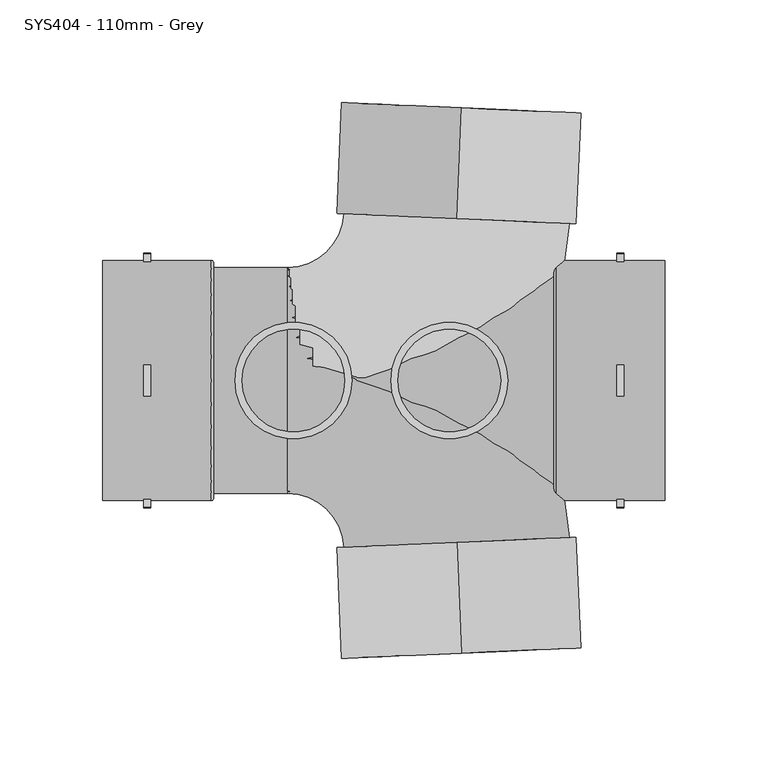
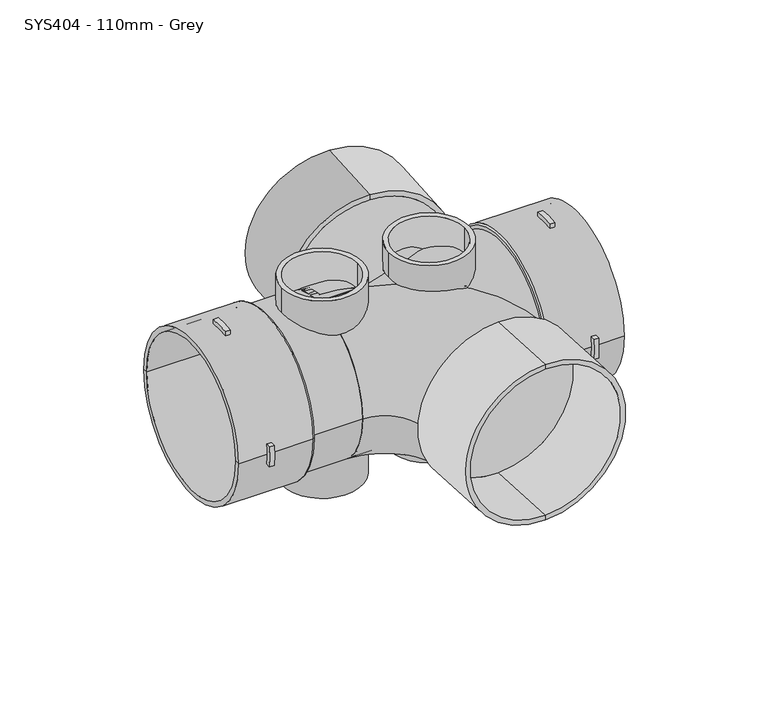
"""IFC4 building model written with IfcOpenShell, lengths in millimetres: pipe fitting geometry, MarleyPlumbingAndDrainage_PipeFitting_DoubleBranch87-5 : SYS404 - 110mm - Grey."""

from ifc_helpers import new_model, si_unit, point, frame, frame_2d, origin, place, context, project, spatial, polyline, circle_curve, ellipse_curve, trimmed, segment, composite_curve, outline, extrude, source, transform, mapped, element, save
from ifc_brep_helpers import plane_surface, cylinder_surface, revolved_surface, advanced_brep


def sys404_110mm_grey_1d753bb9(model_context):
    return source(origin(), model_context, "Body", "SolidModel", [
        advanced_brep(
        [(1.8780099, 78.8988447, -58.5), (1.8780099, 78.8988447, 58.5), (1.8780099, 78.8988447, 55.0), (1.8780099, 78.8988447, -55.0), (4.2334568, 132.8474487, -58.5), (4.2334568, 132.8474487, 58.5), (4.2334568, 132.8474487, -55.0), (4.2334568, 132.8474487, 55.0)],
        [
            (0, 1, circle_curve(frame((1.8780099, 78.8988447, 0.0), z_axis=(-0.04361938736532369, -0.9990482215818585, 0.0), x_axis=(0.0, 0.0, 1.0)), 58.5)),
            (1, 2),
            (2, 3, circle_curve(frame((1.8780099, 78.8988447, 0.0), z_axis=(0.04361938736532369, 0.9990482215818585, 0.0), x_axis=(0.0, 0.0, 1.0)), 55.0)),
            (3, 0),
            (1, 0, circle_curve(frame((1.8780099, 78.8988447, 0.0), z_axis=(-0.04361938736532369, -0.9990482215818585, 0.0), x_axis=(0.0, 0.0, 1.0)), 58.5)),
            (3, 2, circle_curve(frame((1.8780099, 78.8988447, 0.0), z_axis=(0.04361938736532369, 0.9990482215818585, 0.0), x_axis=(0.0, 0.0, 1.0)), 55.0)),
            (4, 5, circle_curve(frame((4.2334568, 132.8474487, 0.0), z_axis=(-0.04361938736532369, -0.9990482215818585, 0.0), x_axis=(0.0, 0.0, 1.0)), 58.5)),
            (5, 1),
            (0, 4),
            (5, 4, circle_curve(frame((4.2334568, 132.8474487, 0.0), z_axis=(-0.04361938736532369, -0.9990482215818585, 0.0), x_axis=(0.0, 0.0, 1.0)), 58.5)),
            (6, 7, circle_curve(frame((4.2334568, 132.8474487, 0.0), z_axis=(-0.04361938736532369, -0.9990482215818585, 0.0), x_axis=(0.0, 0.0, 1.0)), 55.0)),
            (7, 5),
            (4, 6),
            (7, 6, circle_curve(frame((4.2334568, 132.8474487, 0.0), z_axis=(-0.04361938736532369, -0.9990482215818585, 0.0), x_axis=(0.0, 0.0, 1.0)), 55.0)),
            (2, 7),
            (6, 3),
        ],
        [
            plane_surface(frame((1.8780099, 78.8988447, 0.0), z_axis=(-0.04361938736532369, -0.9990482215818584, 0.0), x_axis=(0.0, 0.0, 1.0))),
            cylinder_surface(frame((8.5953955, 232.7522709, 0.0), z_axis=(0.043619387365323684, 0.9990482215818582, 0.0), x_axis=(0.0, 0.0, 1.0)), 58.5),
            plane_surface(frame((4.2334568, 132.8474487, 0.0), z_axis=(0.04361938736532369, 0.9990482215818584, 0.0), x_axis=(0.0, 0.0, 1.0))),
            revolved_surface(polyline([(4.233456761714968, 132.84744870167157, 55.0), (1.8780098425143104, 78.8988447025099, 55.0)]), (8.5953955, 232.7522709, 0.0), (0.043619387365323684, 0.9990482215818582, 0.0)),
        ],
        [
            (0, [[1, 2, 3, 4]]),
            (0, [[5, -4, 6, -2]]),
            (1, [[7, 8, -1, 9]]),
            (1, [[10, -9, -5, -8]]),
            (2, [[11, 12, -7, 13]]),
            (2, [[14, -13, -10, -12]]),
            (3, [[-3, 15, -11, 16]]),
            (3, [[-6, -16, -14, -15]]),
        ],
    ),
        advanced_brep(
        [(1.8780099, -78.8988447, -58.5), (1.8780099, -78.8988447, 58.5), (1.8780099, -78.8988447, 55.0), (1.8780099, -78.8988447, -55.0), (4.2334568, -132.8474487, -58.5), (4.2334568, -132.8474487, 58.5), (4.2334568, -132.8474487, -55.0), (4.2334568, -132.8474487, 55.0)],
        [
            (0, 1, circle_curve(frame((1.8780099, -78.8988447, 0.0), z_axis=(-0.043619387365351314, 0.9990482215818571, 0.0), x_axis=(0.0, 0.0, 1.0)), 58.5)),
            (1, 2),
            (2, 3, circle_curve(frame((1.8780099, -78.8988447, 0.0), z_axis=(0.043619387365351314, -0.9990482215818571, 0.0), x_axis=(0.0, 0.0, 1.0)), 55.0)),
            (3, 0),
            (1, 0, circle_curve(frame((1.8780099, -78.8988447, 0.0), z_axis=(-0.043619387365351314, 0.9990482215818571, 0.0), x_axis=(0.0, 0.0, 1.0)), 58.5)),
            (3, 2, circle_curve(frame((1.8780099, -78.8988447, 0.0), z_axis=(0.043619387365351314, -0.9990482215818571, 0.0), x_axis=(0.0, 0.0, 1.0)), 55.0)),
            (4, 5, circle_curve(frame((4.2334568, -132.8474487, 0.0), z_axis=(-0.043619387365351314, 0.9990482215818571, 0.0), x_axis=(0.0, 0.0, 1.0)), 58.5)),
            (5, 1),
            (0, 4),
            (5, 4, circle_curve(frame((4.2334568, -132.8474487, 0.0), z_axis=(-0.043619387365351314, 0.9990482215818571, 0.0), x_axis=(0.0, 0.0, 1.0)), 58.5)),
            (6, 7, circle_curve(frame((4.2334568, -132.8474487, 0.0), z_axis=(-0.043619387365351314, 0.9990482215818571, 0.0), x_axis=(0.0, 0.0, 1.0)), 55.0)),
            (7, 5),
            (4, 6),
            (7, 6, circle_curve(frame((4.2334568, -132.8474487, 0.0), z_axis=(-0.043619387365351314, 0.9990482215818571, 0.0), x_axis=(0.0, 0.0, 1.0)), 55.0)),
            (2, 7),
            (6, 3),
        ],
        [
            plane_surface(frame((1.8780099, -78.8988447, 0.0), z_axis=(-0.043619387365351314, 0.9990482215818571, 0.0), x_axis=(0.0, 0.0, 1.0))),
            cylinder_surface(frame((8.5953955, -232.7522709, 0.0), z_axis=(0.043619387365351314, -0.9990482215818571, 0.0), x_axis=(0.0, 0.0, 1.0)), 58.5),
            plane_surface(frame((4.2334568, -132.8474487, 0.0), z_axis=(0.043619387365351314, -0.9990482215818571, 0.0), x_axis=(0.0, 0.0, 1.0))),
            revolved_surface(polyline([(4.233456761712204, -132.84744870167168, 55.0), (1.878009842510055, -78.89884470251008, 55.0)]), (8.5953955, -232.7522709, 0.0), (0.043619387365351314, -0.9990482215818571, 0.0)),
        ],
        [
            (0, [[1, 2, 3, 4]]),
            (0, [[5, -4, 6, -2]]),
            (1, [[7, 8, -1, 9]]),
            (1, [[10, -9, -5, -8]]),
            (2, [[11, 12, -7, 13]]),
            (2, [[14, -13, -10, -12]]),
            (3, [[-3, 15, -11, 16]]),
            (3, [[-6, -16, -14, -15]]),
        ],
    ),
        advanced_brep(
        [(-80.5407986, -55.0, 0.0), (-80.5407986, 55.0, 0.0), (-53.0696423, -81.2979111, 0.0), (56.8256621, -76.4997784, 0.0)],
        [
            (0, 1, circle_curve(frame((-80.5407986, 0.0, 0.0), z_axis=(-1.0, 0.0, 0.0), x_axis=(0.0, 1.0, 0.0)), 55.0)),
            (1, 0, circle_curve(frame((-80.5407986, 0.0, 0.0), z_axis=(-1.0, 0.0, 0.0), x_axis=(0.0, 1.0, 0.0)), 55.0)),
            (2, 3, circle_curve(frame((1.8780099, -78.8988447, 0.0), z_axis=(0.0436193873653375, -0.9990482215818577, 0.0), x_axis=(0.9990482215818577, 0.0436193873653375, 0.0)), 55.0)),
            (3, 2, circle_curve(frame((1.8780099, -78.8988447, 0.0), z_axis=(0.0436193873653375, -0.9990482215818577, 0.0), x_axis=(0.9990482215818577, 0.0436193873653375, 0.0)), 55.0)),
            (3, 1, circle_curve(frame((-80.5407986, -82.4973276, 0.0), z_axis=(0.0, 0.0, 1.0), x_axis=(0.0, 1.0, 0.0)), 137.4973276)),
            (0, 2, circle_curve(frame((-80.5407986, -82.4973276, 0.0), z_axis=(0.0, 0.0, -1.0), x_axis=(0.0, 1.0, 0.0)), 27.4973276)),
        ],
        [
            plane_surface(frame((-80.5407986, 0.0, 0.0), z_axis=(-1.0, 0.0, 0.0), x_axis=(0.0, 0.0, 1.0))),
            plane_surface(frame((1.8780099, -78.8988447, 0.0), z_axis=(0.0436193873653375, -0.9990482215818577, 0.0), x_axis=(0.0, 0.0, 1.0))),
            revolved_surface(trimmed(ellipse_curve(frame((-80.5407986, 0.0, 0.0), z_axis=(-1.0, 0.0, 0.0), x_axis=(0.0, 1.0, 0.0)), 55.0, 55.0), [point((-80.5407986, -55.0, 0.0))], [point((-80.5407986, 55.0, 0.0))], True, "CARTESIAN"), (-80.5407986, -82.4973276, 0.0), (0.0, 0.0, -1.0)),
            revolved_surface(trimmed(ellipse_curve(frame((-80.5407986, 0.0, 0.0), z_axis=(-1.0, 0.0, 0.0), x_axis=(0.0, 1.0, 0.0)), 55.0, 55.0), [point((-80.5407986, 55.0, 0.0))], [point((-80.5407986, -55.0, 0.0))], True, "CARTESIAN"), (-80.5407986, -82.4973276, 0.0), (0.0, 0.0, -1.0)),
        ],
        [
            (0, [[1, 2]]),
            (1, [[3, 4]]),
            (2, [[5, -1, 6, -4]]),
            (3, [[-6, -2, -5, -3]]),
        ],
    ),
        advanced_brep(
        [(-80.5407986, -55.0, 0.0), (-80.5407986, 55.0, 0.0), (56.8256621, 76.4997784, 0.0), (-53.0696423, 81.2979111, 0.0)],
        [
            (0, 1, circle_curve(frame((-80.5407986, 0.0, 0.0), z_axis=(-1.0, 0.0, 0.0), x_axis=(0.0, 1.0, 0.0)), 55.0)),
            (1, 0, circle_curve(frame((-80.5407986, 0.0, 0.0), z_axis=(-1.0, 0.0, 0.0), x_axis=(0.0, 1.0, 0.0)), 55.0)),
            (2, 3, circle_curve(frame((1.8780099, 78.8988447, 0.0), z_axis=(0.0436193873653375, 0.9990482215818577, 0.0), x_axis=(-0.9990482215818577, 0.0436193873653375, 0.0)), 55.0)),
            (3, 2, circle_curve(frame((1.8780099, 78.8988447, 0.0), z_axis=(0.0436193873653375, 0.9990482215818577, 0.0), x_axis=(-0.9990482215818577, 0.0436193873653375, 0.0)), 55.0)),
            (3, 1, circle_curve(frame((-80.5407986, 82.4973276, 0.0), z_axis=(0.0, 0.0, -1.0), x_axis=(0.0, -1.0, 0.0)), 27.4973276)),
            (0, 2, circle_curve(frame((-80.5407986, 82.4973276, 0.0), z_axis=(0.0, 0.0, 1.0), x_axis=(0.0, -1.0, 0.0)), 137.4973276)),
        ],
        [
            plane_surface(frame((-80.5407986, 0.0, 0.0), z_axis=(-1.0, 0.0, 0.0), x_axis=(0.0, 0.0, 1.0))),
            plane_surface(frame((1.8780099, 78.8988447, 0.0), z_axis=(0.0436193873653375, 0.9990482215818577, 0.0), x_axis=(0.0, 0.0, 1.0))),
            revolved_surface(trimmed(ellipse_curve(frame((-80.5407986, 0.0, 0.0), z_axis=(-1.0, 0.0, 0.0), x_axis=(0.0, 1.0, 0.0)), 55.0, 55.0), [point((-80.5407986, -55.0, 0.0))], [point((-80.5407986, 55.0, 0.0))], True, "CARTESIAN"), (-80.5407986, 82.4973276, 0.0), (0.0, 0.0, 1.0)),
            revolved_surface(trimmed(ellipse_curve(frame((-80.5407986, 0.0, 0.0), z_axis=(-1.0, 0.0, 0.0), x_axis=(0.0, 1.0, 0.0)), 55.0, 55.0), [point((-80.5407986, 55.0, 0.0))], [point((-80.5407986, -55.0, 0.0))], True, "CARTESIAN"), (-80.5407986, 82.4973276, 0.0), (0.0, 0.0, 1.0)),
        ],
        [
            (0, [[1, 2]]),
            (1, [[3, 4]]),
            (2, [[5, -1, 6, -4]]),
            (3, [[-6, -2, -5, -3]]),
        ],
    ),
        advanced_brep(
        [(-120.2407986, -55.0, 0.0), (-120.2407986, 55.0, 0.0), (-170.7407986, 55.0, 0.0), (-170.7407986, -55.0, 0.0), (-120.2407986, 0.0, 0.0), (52.7592014, -55.0, 0.0), (52.7592014, 55.0, 0.0), (52.7592014, 0.0, 0.0), (103.2592014, -55.0, 0.0), (103.2592014, 55.0, 0.0), (103.2592014, -58.5, 0.0), (103.2592014, 58.5, 0.0), (83.2592014, -58.5, 0.0), (83.2592014, -58.0172388, -7.5), (79.7592014, -58.0172388, -7.5), (79.7592014, -58.5, 0.0), (50.2814145, -58.5, 0.0), (50.2814145, 58.5, 0.0), (79.7592014, 58.5, 0.0), (79.7592014, 58.0172388, -7.5), (83.2592014, 58.0172388, -7.5), (83.2592014, 58.5, 0.0), (83.2592014, -7.5, -58.0172388), (83.2592014, 7.5, -58.0172388), (79.7592014, 7.5, -58.0172388), (79.7592014, -7.5, -58.0172388), (83.2592014, 58.0172388, 7.5), (79.7592014, 58.0172388, 7.5), (79.7592014, -58.0172388, 7.5), (83.2592014, -58.0172388, 7.5), (83.2592014, 7.5, 58.0172388), (83.2592014, -7.5, 58.0172388), (79.7592014, -7.5, 58.0172388), (79.7592014, 7.5, 58.0172388), (49.2592014, -57.4777869, 0.0), (49.2592014, 57.4777869, 0.0), (49.2592014, -55.0, 0.0), (49.2592014, 55.0, 0.0), (-116.7407986, -55.0, 0.0), (-116.7407986, 55.0, 0.0), (-116.7407986, -57.4811152, 0.0), (-116.7407986, 57.4811152, 0.0), (-117.7596834, -58.5, 0.0), (-117.7596834, 58.5, 0.0), (-147.2407986, -58.5, 0.0), (-147.2407986, -58.0172388, -7.5), (-150.7407986, -58.0172388, -7.5), (-150.7407986, -58.5, 0.0), (-170.7407986, -58.5, 0.0), (-170.7407986, 58.5, 0.0), (-150.7407986, 58.5, 0.0), (-150.7407986, 58.0172388, -7.5), (-147.2407986, 58.0172388, -7.5), (-147.2407986, 58.5, 0.0), (-147.2407986, -7.5, -58.0172388), (-147.2407986, 7.5, -58.0172388), (-150.7407986, 7.5, -58.0172388), (-150.7407986, -7.5, -58.0172388), (-147.2407986, 58.0172388, 7.5), (-150.7407986, 58.0172388, 7.5), (-150.7407986, -58.0172388, 7.5), (-147.2407986, -58.0172388, 7.5), (-147.2407986, 7.5, 58.0172388), (-147.2407986, -7.5, 58.0172388), (-150.7407986, -7.5, 58.0172388), (-150.7407986, 7.5, 58.0172388), (-147.2407986, 7.5, 61.5446992), (-147.2407986, -7.5, 61.5446992), (-147.2407986, 61.5446992, -7.5), (-147.2407986, 61.5446992, 7.5), (-147.2407986, -61.5446992, 7.5), (-147.2407986, -61.5446992, -7.5), (-147.2407986, -7.5, -61.5446992), (-147.2407986, 7.5, -61.5446992), (-150.7407986, -7.5, 61.5446992), (-150.7407986, 7.5, 61.5446992), (-150.7407986, 61.5446992, 7.5), (-150.7407986, 61.5446992, -7.5), (-150.7407986, -61.5446992, -7.5), (-150.7407986, -61.5446992, 7.5), (-150.7407986, 7.5, -61.5446992), (-150.7407986, -7.5, -61.5446992), (83.2592014, -61.5446992, 7.5), (83.2592014, -61.5446992, -7.5), (83.2592014, 7.5, 61.5446992), (83.2592014, -7.5, 61.5446992), (83.2592014, 61.5446992, -7.5), (83.2592014, 61.5446992, 7.5), (83.2592014, -7.5, -61.5446992), (83.2592014, 7.5, -61.5446992), (79.7592014, -61.5446992, -7.5), (79.7592014, -61.5446992, 7.5), (79.7592014, -7.5, 61.5446992), (79.7592014, 7.5, 61.5446992), (79.7592014, 61.5446992, 7.5), (79.7592014, 61.5446992, -7.5), (79.7592014, -7.5, -61.5446992), (79.7592014, 7.5, -61.5446992)],
        [
            (0, 1, circle_curve(frame((-120.2407986, 0.0, 0.0), z_axis=(1.0, 0.0, 0.0), x_axis=(0.0, 1.0, 0.0)), 55.0)),
            (1, 2),
            (2, 3, circle_curve(frame((-170.7407986, 0.0, 0.0), z_axis=(-1.0, 0.0, 0.0), x_axis=(0.0, 1.0, 0.0)), 55.0)),
            (3, 0),
            (1, 0, circle_curve(frame((-120.2407986, 0.0, 0.0), z_axis=(1.0, 0.0, 0.0), x_axis=(0.0, 1.0, 0.0)), 55.0)),
            (3, 2, circle_curve(frame((-170.7407986, 0.0, 0.0), z_axis=(-1.0, 0.0, 0.0), x_axis=(0.0, 1.0, 0.0)), 55.0)),
            (0, 4),
            (4, 1),
            (5, 6, circle_curve(frame((52.7592014, 0.0, 0.0), z_axis=(1.0, 0.0, 0.0), x_axis=(0.0, 1.0, 0.0)), 55.0)),
            (6, 7),
            (7, 5),
            (6, 5, circle_curve(frame((52.7592014, 0.0, 0.0), z_axis=(1.0, 0.0, 0.0), x_axis=(0.0, 1.0, 0.0)), 55.0)),
            (5, 8),
            (8, 9, circle_curve(frame((103.2592014, 0.0, 0.0), z_axis=(1.0, 0.0, 0.0), x_axis=(0.0, 1.0, 0.0)), 55.0)),
            (9, 6),
            (9, 8, circle_curve(frame((103.2592014, 0.0, 0.0), z_axis=(1.0, 0.0, 0.0), x_axis=(0.0, 1.0, 0.0)), 55.0)),
            (8, 10),
            (10, 11, circle_curve(frame((103.2592014, 0.0, 0.0), z_axis=(1.0, 0.0, 0.0), x_axis=(0.0, 1.0, 0.0)), 58.5)),
            (11, 9),
            (11, 10, circle_curve(frame((103.2592014, 0.0, 0.0), z_axis=(1.0, 0.0, 0.0), x_axis=(0.0, 1.0, 0.0)), 58.5)),
            (10, 12),
            (12, 13, circle_curve(frame((83.2592014, 0.0, 0.0), z_axis=(1.0, 0.0, 0.0), x_axis=(0.0, 1.0, 0.0)), 58.5)),
            (13, 14),
            (14, 15, circle_curve(frame((79.7592014, 0.0, 0.0), z_axis=(-1.0, 0.0, 0.0), x_axis=(0.0, 1.0, 0.0)), 58.5)),
            (15, 16),
            (16, 17, circle_curve(frame((50.2814145, 0.0, 0.0), z_axis=(1.0, 0.0, 0.0), x_axis=(0.0, 1.0, 0.0)), 58.5)),
            (17, 18),
            (18, 19, circle_curve(frame((79.7592014, 0.0, 0.0), z_axis=(-1.0, 0.0, 0.0), x_axis=(0.0, 1.0, 0.0)), 58.5)),
            (19, 20),
            (20, 21, circle_curve(frame((83.2592014, 0.0, 0.0), z_axis=(1.0, 0.0, 0.0), x_axis=(0.0, 1.0, 0.0)), 58.5)),
            (21, 11),
            (22, 23, circle_curve(frame((83.2592014, 0.0, 0.0), z_axis=(1.0, 0.0, 0.0), x_axis=(0.0, 1.0, 0.0)), 58.5)),
            (23, 24),
            (24, 25, circle_curve(frame((79.7592014, 0.0, 0.0), z_axis=(-1.0, 0.0, 0.0), x_axis=(0.0, 1.0, 0.0)), 58.5)),
            (25, 22),
            (21, 26, circle_curve(frame((83.2592014, 0.0, 0.0), z_axis=(1.0, 0.0, 0.0), x_axis=(0.0, 1.0, 0.0)), 58.5)),
            (26, 27),
            (27, 18, circle_curve(frame((79.7592014, 0.0, 0.0), z_axis=(-1.0, 0.0, 0.0), x_axis=(0.0, 1.0, 0.0)), 58.5)),
            (17, 16, circle_curve(frame((50.2814145, 0.0, 0.0), z_axis=(1.0, 0.0, 0.0), x_axis=(0.0, 1.0, 0.0)), 58.5)),
            (15, 28, circle_curve(frame((79.7592014, 0.0, 0.0), z_axis=(-1.0, 0.0, 0.0), x_axis=(0.0, 1.0, 0.0)), 58.5)),
            (28, 29),
            (29, 12, circle_curve(frame((83.2592014, 0.0, 0.0), z_axis=(1.0, 0.0, 0.0), x_axis=(0.0, 1.0, 0.0)), 58.5)),
            (30, 31, circle_curve(frame((83.2592014, 0.0, 0.0), z_axis=(1.0, 0.0, 0.0), x_axis=(0.0, 1.0, 0.0)), 58.5)),
            (31, 32),
            (32, 33, circle_curve(frame((79.7592014, 0.0, 0.0), z_axis=(-1.0, 0.0, 0.0), x_axis=(0.0, 1.0, 0.0)), 58.5)),
            (33, 30),
            (16, 34, circle_curve(frame((50.2814145, -57.4777869, 0.0), z_axis=(0.0, 0.0, -1.0), x_axis=(1.0, 0.0, 0.0)), 1.0222131)),
            (34, 35, circle_curve(frame((49.2592014, 0.0, 0.0), z_axis=(1.0, 0.0, 0.0), x_axis=(0.0, 1.0, 0.0)), 57.4777869)),
            (35, 17, circle_curve(frame((50.2814145, 57.4777869, 0.0), z_axis=(0.0, 0.0, -1.0), x_axis=(1.0, 0.0, 0.0)), 1.0222131)),
            (35, 34, circle_curve(frame((49.2592014, 0.0, 0.0), z_axis=(1.0, 0.0, 0.0), x_axis=(0.0, 1.0, 0.0)), 57.4777869)),
            (34, 36),
            (36, 37, circle_curve(frame((49.2592014, 0.0, 0.0), z_axis=(1.0, 0.0, 0.0), x_axis=(0.0, 1.0, 0.0)), 55.0)),
            (37, 35),
            (37, 36, circle_curve(frame((49.2592014, 0.0, 0.0), z_axis=(1.0, 0.0, 0.0), x_axis=(0.0, 1.0, 0.0)), 55.0)),
            (36, 38),
            (38, 39, circle_curve(frame((-116.7407986, 0.0, 0.0), z_axis=(1.0, 0.0, 0.0), x_axis=(0.0, 1.0, 0.0)), 55.0)),
            (39, 37),
            (39, 38, circle_curve(frame((-116.7407986, 0.0, 0.0), z_axis=(1.0, 0.0, 0.0), x_axis=(0.0, 1.0, 0.0)), 55.0)),
            (38, 40),
            (40, 41, circle_curve(frame((-116.7407986, 0.0, 0.0), z_axis=(1.0, 0.0, 0.0), x_axis=(0.0, 1.0, 0.0)), 57.4811152)),
            (41, 39),
            (41, 40, circle_curve(frame((-116.7407986, 0.0, 0.0), z_axis=(1.0, 0.0, 0.0), x_axis=(0.0, 1.0, 0.0)), 57.4811152)),
            (40, 42, circle_curve(frame((-117.7596834, -57.4811152, 0.0), z_axis=(0.0, 0.0, -1.0), x_axis=(1.0, 0.0, 0.0)), 1.0188848)),
            (42, 43, circle_curve(frame((-117.7596834, 0.0, 0.0), z_axis=(1.0, 0.0, 0.0), x_axis=(0.0, 1.0, 0.0)), 58.5)),
            (43, 41, circle_curve(frame((-117.7596834, 57.4811152, 0.0), z_axis=(0.0, 0.0, -1.0), x_axis=(1.0, 0.0, 0.0)), 1.0188848)),
            (43, 42, circle_curve(frame((-117.7596834, 0.0, 0.0), z_axis=(1.0, 0.0, 0.0), x_axis=(0.0, 1.0, 0.0)), 58.5)),
            (42, 44),
            (44, 45, circle_curve(frame((-147.2407986, 0.0, 0.0), z_axis=(1.0, 0.0, 0.0), x_axis=(0.0, 1.0, 0.0)), 58.5)),
            (45, 46),
            (46, 47, circle_curve(frame((-150.7407986, 0.0, 0.0), z_axis=(-1.0, 0.0, 0.0), x_axis=(0.0, 1.0, 0.0)), 58.5)),
            (47, 48),
            (48, 49, circle_curve(frame((-170.7407986, 0.0, 0.0), z_axis=(1.0, 0.0, 0.0), x_axis=(0.0, 1.0, 0.0)), 58.5)),
            (49, 50),
            (50, 51, circle_curve(frame((-150.7407986, 0.0, 0.0), z_axis=(-1.0, 0.0, 0.0), x_axis=(0.0, 1.0, 0.0)), 58.5)),
            (51, 52),
            (52, 53, circle_curve(frame((-147.2407986, 0.0, 0.0), z_axis=(1.0, 0.0, 0.0), x_axis=(0.0, 1.0, 0.0)), 58.5)),
            (53, 43),
            (54, 55, circle_curve(frame((-147.2407986, 0.0, 0.0), z_axis=(1.0, 0.0, 0.0), x_axis=(0.0, 1.0, 0.0)), 58.5)),
            (55, 56),
            (56, 57, circle_curve(frame((-150.7407986, 0.0, 0.0), z_axis=(-1.0, 0.0, 0.0), x_axis=(0.0, 1.0, 0.0)), 58.5)),
            (57, 54),
            (53, 58, circle_curve(frame((-147.2407986, 0.0, 0.0), z_axis=(1.0, 0.0, 0.0), x_axis=(0.0, 1.0, 0.0)), 58.5)),
            (58, 59),
            (59, 50, circle_curve(frame((-150.7407986, 0.0, 0.0), z_axis=(-1.0, 0.0, 0.0), x_axis=(0.0, 1.0, 0.0)), 58.5)),
            (49, 48, circle_curve(frame((-170.7407986, 0.0, 0.0), z_axis=(1.0, 0.0, 0.0), x_axis=(0.0, 1.0, 0.0)), 58.5)),
            (47, 60, circle_curve(frame((-150.7407986, 0.0, 0.0), z_axis=(-1.0, 0.0, 0.0), x_axis=(0.0, 1.0, 0.0)), 58.5)),
            (60, 61),
            (61, 44, circle_curve(frame((-147.2407986, 0.0, 0.0), z_axis=(1.0, 0.0, 0.0), x_axis=(0.0, 1.0, 0.0)), 58.5)),
            (62, 63, circle_curve(frame((-147.2407986, 0.0, 0.0), z_axis=(1.0, 0.0, 0.0), x_axis=(0.0, 1.0, 0.0)), 58.5)),
            (63, 64),
            (64, 65, circle_curve(frame((-150.7407986, 0.0, 0.0), z_axis=(-1.0, 0.0, 0.0), x_axis=(0.0, 1.0, 0.0)), 58.5)),
            (65, 62),
            (2, 49),
            (48, 3),
            (62, 66),
            (66, 67, circle_curve(frame((-147.2407986, 0.0, 0.0), z_axis=(1.0, 0.0, 0.0), x_axis=(0.0, 1.0, 0.0)), 62.0)),
            (67, 63),
            (52, 68),
            (68, 69, circle_curve(frame((-147.2407986, 0.0, 0.0), z_axis=(1.0, 0.0, 0.0), x_axis=(0.0, 1.0, 0.0)), 62.0)),
            (69, 58),
            (61, 70),
            (70, 71, circle_curve(frame((-147.2407986, 0.0, 0.0), z_axis=(1.0, 0.0, 0.0), x_axis=(0.0, 1.0, 0.0)), 62.0)),
            (71, 45),
            (54, 72),
            (72, 73, circle_curve(frame((-147.2407986, 0.0, 0.0), z_axis=(1.0, 0.0, 0.0), x_axis=(0.0, 1.0, 0.0)), 62.0)),
            (73, 55),
            (64, 74),
            (74, 75, circle_curve(frame((-150.7407986, 0.0, 0.0), z_axis=(-1.0, 0.0, 0.0), x_axis=(0.0, 1.0, 0.0)), 62.0)),
            (75, 65),
            (59, 76),
            (76, 77, circle_curve(frame((-150.7407986, 0.0, 0.0), z_axis=(-1.0, 0.0, 0.0), x_axis=(0.0, 1.0, 0.0)), 62.0)),
            (77, 51),
            (46, 78),
            (78, 79, circle_curve(frame((-150.7407986, 0.0, 0.0), z_axis=(-1.0, 0.0, 0.0), x_axis=(0.0, 1.0, 0.0)), 62.0)),
            (79, 60),
            (56, 80),
            (80, 81, circle_curve(frame((-150.7407986, 0.0, 0.0), z_axis=(-1.0, 0.0, 0.0), x_axis=(0.0, 1.0, 0.0)), 62.0)),
            (81, 57),
            (75, 66),
            (74, 67),
            (77, 68),
            (76, 69),
            (79, 70),
            (78, 71),
            (81, 72),
            (80, 73),
            (29, 82),
            (82, 83, circle_curve(frame((83.2592014, 0.0, 0.0), z_axis=(1.0, 0.0, 0.0), x_axis=(0.0, 1.0, 0.0)), 62.0)),
            (83, 13),
            (30, 84),
            (84, 85, circle_curve(frame((83.2592014, 0.0, 0.0), z_axis=(1.0, 0.0, 0.0), x_axis=(0.0, 1.0, 0.0)), 62.0)),
            (85, 31),
            (20, 86),
            (86, 87, circle_curve(frame((83.2592014, 0.0, 0.0), z_axis=(1.0, 0.0, 0.0), x_axis=(0.0, 1.0, 0.0)), 62.0)),
            (87, 26),
            (88, 89, circle_curve(frame((83.2592014, 0.0, 0.0), z_axis=(1.0, 0.0, 0.0), x_axis=(0.0, 1.0, 0.0)), 62.0)),
            (89, 23),
            (22, 88),
            (14, 90),
            (90, 91, circle_curve(frame((79.7592014, 0.0, 0.0), z_axis=(-1.0, 0.0, 0.0), x_axis=(0.0, 1.0, 0.0)), 62.0)),
            (91, 28),
            (32, 92),
            (92, 93, circle_curve(frame((79.7592014, 0.0, 0.0), z_axis=(-1.0, 0.0, 0.0), x_axis=(0.0, 1.0, 0.0)), 62.0)),
            (93, 33),
            (27, 94),
            (94, 95, circle_curve(frame((79.7592014, 0.0, 0.0), z_axis=(-1.0, 0.0, 0.0), x_axis=(0.0, 1.0, 0.0)), 62.0)),
            (95, 19),
            (96, 25),
            (24, 97),
            (97, 96, circle_curve(frame((79.7592014, 0.0, 0.0), z_axis=(-1.0, 0.0, 0.0), x_axis=(0.0, 1.0, 0.0)), 62.0)),
            (91, 82),
            (90, 83),
            (93, 84),
            (92, 85),
            (95, 86),
            (94, 87),
            (88, 96),
            (97, 89),
        ],
        [
            revolved_surface(polyline([(-170.74079859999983, 55.0, 0.0), (-120.24079859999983, 55.0, 0.0)]), (1967.8259895, 0.0, 0.0), (-1.0, 0.0, 0.0)),
            plane_surface(frame((-120.2407986, 0.0, 0.0), z_axis=(-1.0, 0.0, 0.0), x_axis=(0.0, 1.0, 0.0))),
            plane_surface(frame((52.7592014, 0.0, 0.0), z_axis=(1.0, 0.0, 0.0), x_axis=(0.0, 1.0, 0.0))),
            revolved_surface(polyline([(52.75920139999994, 55.0, 0.0), (103.25920139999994, 55.0, 0.0)]), (1967.8259895, 0.0, 0.0), (-1.0, 0.0, 0.0)),
            plane_surface(frame((103.2592014, 0.0, 0.0), z_axis=(1.0, 0.0, 0.0), x_axis=(0.0, 1.0, 0.0))),
            cylinder_surface(frame((1967.8259895, 0.0, 0.0), z_axis=(-1.0, 0.0, 0.0), x_axis=(0.0, 1.0, 0.0)), 58.5),
            revolved_surface(trimmed(ellipse_curve(frame((50.2814145, 57.4777869, 0.0), z_axis=(0.0, 0.0, 1.0), x_axis=(1.0, 0.0, 0.0)), 1.0222131, 1.0222131), [point((50.2814145, 58.5, 0.0))], [point((49.2592014, 57.4777869, 0.0))], True, "CARTESIAN"), (1967.8259895, 0.0, 0.0), (-1.0, 0.0, 0.0)),
            plane_surface(frame((49.2592014, 0.0, 0.0), z_axis=(-1.0, 0.0, 0.0), x_axis=(0.0, 1.0, 0.0))),
            cylinder_surface(frame((1967.8259895, 0.0, 0.0), z_axis=(-1.0, 0.0, 0.0), x_axis=(0.0, 1.0, 0.0)), 55.0),
            plane_surface(frame((-116.7407986, 0.0, 0.0), z_axis=(1.0, 0.0, 0.0), x_axis=(0.0, 1.0, 0.0))),
            revolved_surface(trimmed(ellipse_curve(frame((-117.7596834, 57.4811152, 0.0), z_axis=(0.0, 0.0, 1.0), x_axis=(1.0, 0.0, 0.0)), 1.0188848, 1.0188848), [point((-116.7407986, 57.4811152, 0.0))], [point((-117.7596834, 58.5, 0.0))], True, "CARTESIAN"), (1967.8259895, 0.0, 0.0), (-1.0, 0.0, 0.0)),
            plane_surface(frame((-170.7407986, 0.0, 0.0), z_axis=(-1.0, 0.0, 0.0), x_axis=(0.0, 1.0, 0.0))),
            plane_surface(frame((-147.2407986, 7.5, 61.5446992), z_axis=(1.0, 0.0, 0.0), x_axis=(0.0, 0.0, 1.0))),
            plane_surface(frame((-150.7407986, 7.5, 61.5446992), z_axis=(-1.0, 0.0, 0.0), x_axis=(0.0, 0.0, -1.0))),
            plane_surface(frame((-147.2407986, 7.5, 58.0172388), z_axis=(0.0, 1.0, 0.0), x_axis=(-1.0, 0.0, 0.0))),
            cylinder_surface(frame((-150.7407986, 0.0, 0.0), z_axis=(1.0, 0.0, 0.0), x_axis=(0.0, 1.0, 0.0)), 62.0),
            plane_surface(frame((-147.2407986, -7.5, 61.5446992), z_axis=(0.0, -1.0, 0.0), x_axis=(-1.0, 0.0, 0.0))),
            plane_surface(frame((-147.2407986, 58.0172388, -7.5), z_axis=(0.0, 0.0, -1.0), x_axis=(-1.0, 0.0, 0.0))),
            cylinder_surface(frame((-1.5667881, 0.0, 0.0), z_axis=(1.0, 0.0, 0.0), x_axis=(0.0, 1.0, 0.0)), 62.0),
            plane_surface(frame((-147.2407986, 61.5446992, 7.5), z_axis=(0.0, 0.0, 1.0), x_axis=(-1.0, 0.0, 0.0))),
            plane_surface(frame((-147.2407986, -58.0172388, 7.5), z_axis=(0.0, 0.0, 1.0), x_axis=(-1.0, 0.0, 0.0))),
            plane_surface(frame((-147.2407986, -61.5446992, -7.5), z_axis=(0.0, 0.0, -1.0), x_axis=(-1.0, 0.0, 0.0))),
            plane_surface(frame((-147.2407986, -7.5, -58.0172388), z_axis=(0.0, -1.0, 0.0), x_axis=(-1.0, 0.0, 0.0))),
            plane_surface(frame((-147.2407986, 7.5, -61.5446992), z_axis=(0.0, 1.0, 0.0), x_axis=(-1.0, 0.0, 0.0))),
            plane_surface(frame((83.2592014, 58.5, 0.0), z_axis=(1.0, 0.0, 0.0), x_axis=(0.0, 0.0, -1.0))),
            plane_surface(frame((79.7592014, 58.5, 0.0), z_axis=(-1.0, 0.0, 0.0), x_axis=(0.0, 0.0, 1.0))),
            plane_surface(frame((83.2592014, -58.0172388, 7.5), z_axis=(0.0, 0.0, 1.0), x_axis=(-1.0, 0.0, 0.0))),
            cylinder_surface(frame((79.7592014, 0.0, 0.0), z_axis=(1.0, 0.0, 0.0), x_axis=(0.0, 1.0, 0.0)), 62.0),
            plane_surface(frame((83.2592014, -61.5446992, -7.5), z_axis=(0.0, 0.0, -1.0), x_axis=(-1.0, 0.0, 0.0))),
            plane_surface(frame((83.2592014, 7.5, 58.0172388), z_axis=(0.0, 1.0, 0.0), x_axis=(-1.0, 0.0, 0.0))),
            plane_surface(frame((83.2592014, -7.5, 61.5446992), z_axis=(0.0, -1.0, 0.0), x_axis=(-1.0, 0.0, 0.0))),
            plane_surface(frame((83.2592014, 58.0172388, -7.5), z_axis=(0.0, 0.0, -1.0), x_axis=(-1.0, 0.0, 0.0))),
            plane_surface(frame((83.2592014, 61.5446992, 7.5), z_axis=(0.0, 0.0, 1.0), x_axis=(-1.0, 0.0, 0.0))),
            plane_surface(frame((83.2592014, 7.5, -61.5446992), z_axis=(0.0, 1.0, 0.0), x_axis=(-1.0, 0.0, 0.0))),
            plane_surface(frame((83.2592014, -7.5, -58.0172388), z_axis=(0.0, -1.0, 0.0), x_axis=(-1.0, 0.0, 0.0))),
        ],
        [
            (0, [[1, 2, 3, 4]]),
            (0, [[-2, 5, -4, 6]]),
            (1, [[-1, 7, 8]]),
            (1, [[-5, -8, -7]]),
            (2, [[9, 10, 11]]),
            (2, [[-10, 12, -11]]),
            (3, [[-9, 13, 14, 15]]),
            (3, [[-12, -15, 16, -13]]),
            (4, [[-14, 17, 18, 19]]),
            (4, [[-16, -19, 20, -17]]),
            (5, [[-18, 21, 22, 23, 24, 25, 26, 27, 28, 29, 30, 31], [32, 33, 34, 35]]),
            (5, [[-20, -31, 36, 37, 38, -27, 39, -25, 40, 41, 42, -21], [43, 44, 45, 46]]),
            (6, [[-26, 47, 48, 49]]),
            (6, [[-39, -49, 50, -47]]),
            (7, [[-48, 51, 52, 53]]),
            (7, [[-50, -53, 54, -51]]),
            (8, [[-52, 55, 56, 57]]),
            (8, [[-54, -57, 58, -55]]),
            (9, [[-56, 59, 60, 61]]),
            (9, [[-58, -61, 62, -59]]),
            (10, [[-60, 63, 64, 65]]),
            (10, [[-62, -65, 66, -63]]),
            (5, [[-64, 67, 68, 69, 70, 71, 72, 73, 74, 75, 76, 77], [78, 79, 80, 81]]),
            (5, [[-66, -77, 82, 83, 84, -73, 85, -71, 86, 87, 88, -67], [89, 90, 91, 92]]),
            (11, [[-3, 93, -72, 94]]),
            (11, [[-6, -94, -85, -93]]),
            (12, [[95, 96, 97, -89]]),
            (12, [[98, 99, 100, -82, -76]]),
            (12, [[101, 102, 103, -68, -88]]),
            (12, [[104, 105, 106, -78]]),
            (13, [[107, 108, 109, -91]]),
            (13, [[110, 111, 112, -74, -84]]),
            (13, [[113, 114, 115, -86, -70]]),
            (13, [[116, 117, 118, -80]]),
            (14, [[-95, -92, -109, 119]]),
            (15, [[-96, -119, -108, 120]]),
            (16, [[-97, -120, -107, -90]]),
            (17, [[-98, -75, -112, 121]]),
            (18, [[-99, -121, -111, 122]]),
            (19, [[-100, -122, -110, -83]]),
            (20, [[-101, -87, -115, 123]]),
            (18, [[-102, -123, -114, 124]]),
            (21, [[-103, -124, -113, -69]]),
            (22, [[-104, -81, -118, 125]]),
            (18, [[-105, -125, -117, 126]]),
            (23, [[-106, -126, -116, -79]]),
            (24, [[127, 128, 129, -22, -42]]),
            (24, [[130, 131, 132, -43]]),
            (24, [[133, 134, 135, -36, -30]]),
            (24, [[136, 137, -32, 138]]),
            (25, [[139, 140, 141, -40, -24]]),
            (25, [[142, 143, 144, -45]]),
            (25, [[145, 146, 147, -28, -38]]),
            (25, [[148, -34, 149, 150]]),
            (26, [[-127, -41, -141, 151]]),
            (27, [[-128, -151, -140, 152]]),
            (28, [[-129, -152, -139, -23]]),
            (29, [[-130, -46, -144, 153]]),
            (18, [[-131, -153, -143, 154]]),
            (30, [[-132, -154, -142, -44]]),
            (31, [[-133, -29, -147, 155]]),
            (18, [[-134, -155, -146, 156]]),
            (32, [[-135, -156, -145, -37]]),
            (18, [[-136, 157, -150, 158]]),
            (33, [[-137, -158, -149, -33]]),
            (34, [[-138, -35, -148, -157]]),
        ],
    ),
        extrude(outline(composite_curve([segment(trimmed(circle_curve(frame_2d((-1.7407986, 0.0)), 28.5), [point((-30.2407986, 0.0))], [point((26.7592014, 0.0))], False, "CARTESIAN"), True, "CONTINUOUS"), segment(trimmed(circle_curve(frame_2d((-1.7407986, 0.0)), 28.5), [point((26.7592014, 0.0))], [point((-30.2407986, 0.0))], False, "CARTESIAN"), True, "CONTINUOUS")], self_intersect=False), holes=[composite_curve([segment(trimmed(circle_curve(frame_2d((-1.7407986, 0.0)), 25.0), [point((-26.7407986, 0.0))], [point((23.2592014, 0.0))], True, "CARTESIAN"), True, "CONTINUOUS"), segment(trimmed(circle_curve(frame_2d((-1.7407986, 0.0)), 25.0), [point((23.2592014, 0.0))], [point((-26.7407986, 0.0))], True, "CARTESIAN"), True, "CONTINUOUS")], self_intersect=False)]), frame((0.0, 0.0, -74.1429746), z_axis=(0.0, 0.0, 1.0), x_axis=(1.0, 0.0, 0.0)), (0.0, 0.0, 1.0), 148.2859492),
        extrude(outline(composite_curve([segment(trimmed(circle_curve(frame_2d((-77.7407986, 0.0)), 28.5), [point((-106.2407986, 0.0))], [point((-49.2407986, 0.0))], False, "CARTESIAN"), True, "CONTINUOUS"), segment(trimmed(circle_curve(frame_2d((-77.7407986, 0.0)), 28.5), [point((-49.2407986, 0.0))], [point((-106.2407986, 0.0))], False, "CARTESIAN"), True, "CONTINUOUS")], self_intersect=False), holes=[composite_curve([segment(trimmed(circle_curve(frame_2d((-77.7407986, 0.0)), 25.0), [point((-102.7407986, 0.0))], [point((-52.7407986, 0.0))], True, "CARTESIAN"), True, "CONTINUOUS"), segment(trimmed(circle_curve(frame_2d((-77.7407986, 0.0)), 25.0), [point((-52.7407986, 0.0))], [point((-102.7407986, 0.0))], True, "CARTESIAN"), True, "CONTINUOUS")], self_intersect=False)]), frame((0.0, 0.0, -74.1429746), z_axis=(0.0, 0.0, 1.0), x_axis=(1.0, 0.0, 0.0)), (0.0, 0.0, 1.0), 148.2859492),
    ])


if __name__ == "__main__":
    model = new_model("IFC4")
    model_context = context("Model", 3, world=origin())
    ifc_project = project(units=[si_unit("LENGTHUNIT", "METRE", prefix="MILLI")], contexts=[model_context])
    site = spatial("IfcSite", under=ifc_project)
    building = spatial("IfcBuilding", under=site)
    placement = place(None, origin())
    sys404_110mm_grey_shape = sys404_110mm_grey_1d753bb9(model_context)
    element("IfcPipeFitting", 1, ObjectType="MarleyPlumbingAndDrainage_PipeFitting_DoubleBranch87-5 : SYS404 - 110mm - Grey", at=placement, inside=building, context=model_context, shape_type="MappedRepresentation", body=[
        mapped(sys404_110mm_grey_shape, transform((0.0, 0.0, 0.0), x_axis=(1.0, 0.0, 0.0), y_axis=(0.0, 1.0, 0.0), z_axis=(0.0, 0.0, 1.0))),
    ])
    save(model, "model.ifc")
